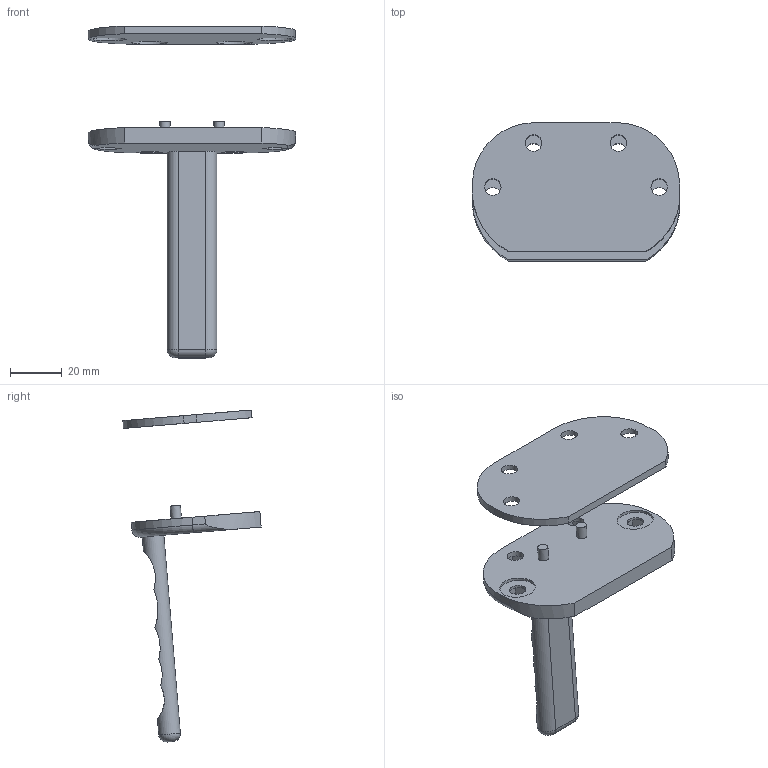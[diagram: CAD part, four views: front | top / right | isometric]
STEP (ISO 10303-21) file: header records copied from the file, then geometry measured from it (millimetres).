
FILE_DESCRIPTION (( 'STEP AP214' ), '1' );
FILE_NAME ('handheld-body-section-b.step', '2026-11-14T03:53:55', ( '' ), ( '' ), 'SwSTEP 2.0', 'SolidWorks 2024', '' );
FILE_SCHEMA (( 'AUTOMOTIVE_DESIGN' ));
Length unit declared in the file: millimetre
Products named in the file (1): handheld-body-section-b
Bounding box: 80.3 x 53.61 x 128.66 mm (x, y, z)
Volume: 38164.2 mm3; surface area: 20485.1 mm2
Topology: 2 solids, 2 shells, 92 faces, 231 edges, 154 vertices
Faces by surface type: plane 52, cylinder 36, torus 4
Full cylindrical faces by diameter (mm): 4 x2, 6.4 x8, 14 x6
Entity records: 2947 total; most frequent: CARTESIAN_POINT 770, DIRECTION 433, ORIENTED_EDGE 414, EDGE_CURVE 207, AXIS2_PLACEMENT_3D 153, VERTEX_POINT 146, EDGE_LOOP 135, LINE 127
